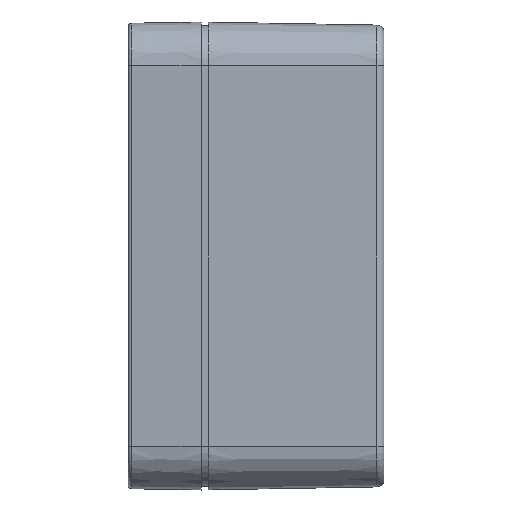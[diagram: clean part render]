
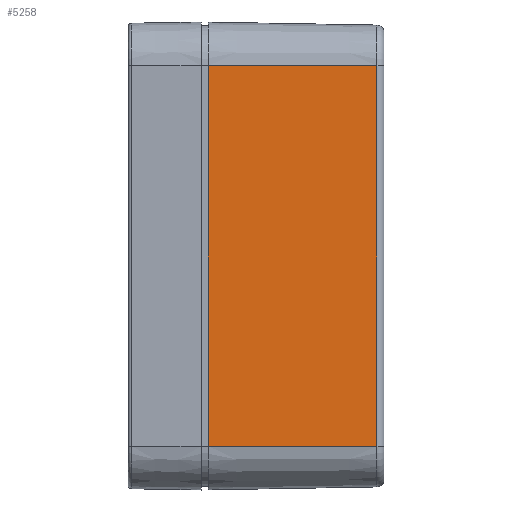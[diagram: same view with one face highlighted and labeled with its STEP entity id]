
A CAD part, left-side view. The second image highlights one B-rep face of the part: STEP entity #5258.
In plain terms, the highlighted planar face has unit normal (-1, -0.018, 0).
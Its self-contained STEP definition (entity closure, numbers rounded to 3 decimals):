
#4 = CARTESIAN_POINT ( 'NONE',  ( -34., 0., 26. ) ) ;
#37 = EDGE_CURVE ( 'NONE', #49, #3409, #3844, .T. ) ;
#49 = VERTEX_POINT ( 'NONE', #9054 ) ;
#355 = PLANE ( 'NONE',  #630 ) ;
#630 = AXIS2_PLACEMENT_3D ( 'NONE', #5284, #1185, #6939 ) ;
#753 = ORIENTED_EDGE ( 'NONE', *, *, #1291, .F. ) ;
#1185 = DIRECTION ( 'NONE',  ( -1., -0.017, 0. ) ) ;
#1290 = ORIENTED_EDGE ( 'NONE', *, *, #9460, .T. ) ;
#1291 = EDGE_CURVE ( 'NONE', #9092, #3409, #2635, .T. ) ;
#1525 = CARTESIAN_POINT ( 'NONE',  ( -33.581, -24.017, 26. ) ) ;
#1622 = VECTOR ( 'NONE', #10339, 1000. ) ;
#1671 = VECTOR ( 'NONE', #6549, 1000. ) ;
#2250 = ORIENTED_EDGE ( 'NONE', *, *, #37, .T. ) ;
#2497 = DIRECTION ( 'NONE',  ( -0.017, 1., 0. ) ) ;
#2635 = LINE ( 'NONE', #6695, #9223 ) ;
#3074 = EDGE_CURVE ( 'NONE', #9092, #3255, #5992, .T. ) ;
#3255 = VERTEX_POINT ( 'NONE', #1525 ) ;
#3409 = VERTEX_POINT ( 'NONE', #7624 ) ;
#3844 = LINE ( 'NONE', #4087, #1671 ) ;
#4087 = CARTESIAN_POINT ( 'NONE',  ( -33.983, -1., 26. ) ) ;
#5062 = LINE ( 'NONE', #4, #6984 ) ;
#5258 = ADVANCED_FACE ( 'NONE', ( #6499 ), #355, .T. ) ;
#5284 = CARTESIAN_POINT ( 'NONE',  ( -34., 0., 26. ) ) ;
#5992 = LINE ( 'NONE', #8676, #1622 ) ;
#6499 = FACE_OUTER_BOUND ( 'NONE', #9398, .T. ) ;
#6549 = DIRECTION ( 'NONE',  ( 0., 0., -1. ) ) ;
#6695 = CARTESIAN_POINT ( 'NONE',  ( -34., 0., -26. ) ) ;
#6939 = DIRECTION ( 'NONE',  ( 0.017, -1., 0. ) ) ;
#6984 = VECTOR ( 'NONE', #2497, 1000. ) ;
#7624 = CARTESIAN_POINT ( 'NONE',  ( -33.983, -1., -26. ) ) ;
#7763 = CARTESIAN_POINT ( 'NONE',  ( -33.581, -24.017, -26. ) ) ;
#8676 = CARTESIAN_POINT ( 'NONE',  ( -33.581, -24.017, 26. ) ) ;
#9054 = CARTESIAN_POINT ( 'NONE',  ( -33.983, -1., 26. ) ) ;
#9092 = VERTEX_POINT ( 'NONE', #7763 ) ;
#9163 = DIRECTION ( 'NONE',  ( -0.017, 1., 0. ) ) ;
#9223 = VECTOR ( 'NONE', #9163, 1000. ) ;
#9398 = EDGE_LOOP ( 'NONE', ( #1290, #2250, #753, #9918 ) ) ;
#9460 = EDGE_CURVE ( 'NONE', #3255, #49, #5062, .T. ) ;
#9918 = ORIENTED_EDGE ( 'NONE', *, *, #3074, .T. ) ;
#10339 = DIRECTION ( 'NONE',  ( 0., 0., 1. ) ) ;
